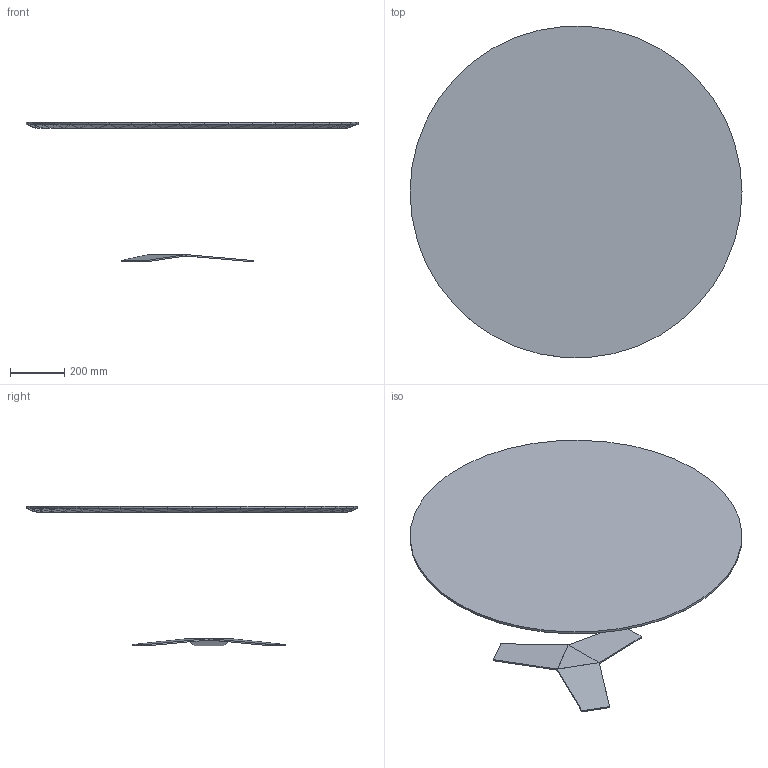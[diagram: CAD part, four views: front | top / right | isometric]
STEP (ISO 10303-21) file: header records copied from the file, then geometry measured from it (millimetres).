
FILE_DESCRIPTION(/* description */ (''),/* implementation_level */ '2;1');
FILE_NAME(/* name */ 'Tristar 74x100 v4.step',/* time_stamp */ '2023-03-06T08:36:33+01:00',/* author */ (''),/* organization */ (''),/* preprocessor_version */ 'ST-DEVELOPER v19.2',/* originating_system */ 'Autodesk Translation Framework v11.17.0.187',/* authorisation */ '');
FILE_SCHEMA (('AUTOMOTIVE_DESIGN { 1 0 10303 214 3 1 1 }'));
Length unit declared in the file: metre
Products named in the file (8): Tristar 74x100; #49288; Columna(solida); H9-O100M2-B v1; asm; Pata 02; Pata 01; Pata 03
Assembly tree (9 placements, depth 3):
  Tristar 74x100
    #49288
      Columna(solida)
      H9-O100M2-B v1
    asm
      Pata 02
      Pata 01  x3
      Pata 03
Bounding box: 1224.32 x 1220.93 x 515.8 mm (x, y, z)
Volume: 722247.2 mm3; surface area: 2708942.3 mm2
Topology: 5 solids, 56 shells, 1852 faces, 4542 edges, 1843 vertices
Faces by surface type: plane 1844, cylinder 8
Entity records: 49311 total; most frequent: CARTESIAN_POINT 11691, DIRECTION 7337, ORIENTED_EDGE 6382, EDGE_CURVE 4506, LINE 3615, VECTOR 3615, AXIS2_PLACEMENT_3D 1861, EDGE_LOOP 1858
